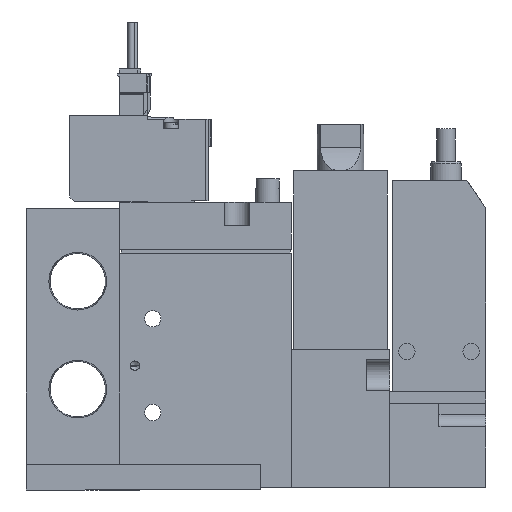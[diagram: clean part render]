
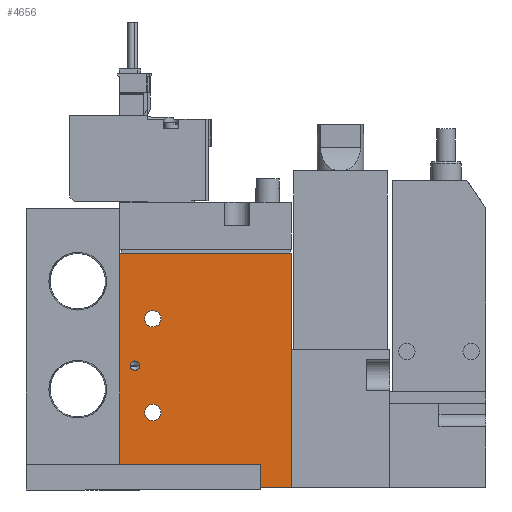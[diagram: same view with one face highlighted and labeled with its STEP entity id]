
A CAD part, left-side view. The second image highlights one B-rep face of the part: STEP entity #4656.
In plain terms, the highlighted planar face has unit normal (-1, 0, 0) as drawn and (1, 0, 0) by its records, which use the part's own axes.
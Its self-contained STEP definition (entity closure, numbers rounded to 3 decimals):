
#4656=ADVANCED_FACE('',(#7368,#7369,#7370,#7371),#7372,.F.);
#7368=FACE_BOUND('',#12770,.T.);
#7369=FACE_BOUND('',#12771,.T.);
#7370=FACE_BOUND('',#12772,.T.);
#7371=FACE_OUTER_BOUND('',#12773,.T.);
#7372=PLANE('',#12774);
#12770=EDGE_LOOP('',(#19151));
#12771=EDGE_LOOP('',(#19152));
#12772=EDGE_LOOP('',(#19153));
#12773=EDGE_LOOP('',(#19154,#19155,#19156,#19157));
#12774=AXIS2_PLACEMENT_3D('',#19158,#19159,#19160);
#19151=ORIENTED_EDGE('',*,*,#36791,.F.);
#19152=ORIENTED_EDGE('',*,*,#36793,.T.);
#19153=ORIENTED_EDGE('',*,*,#36771,.T.);
#19154=ORIENTED_EDGE('',*,*,#36781,.T.);
#19155=ORIENTED_EDGE('',*,*,#36786,.F.);
#19156=ORIENTED_EDGE('',*,*,#36784,.F.);
#19157=ORIENTED_EDGE('',*,*,#36787,.T.);
#19158=CARTESIAN_POINT('',(8.5,-19.444,50.0));
#19159=DIRECTION('',(-1.0,0.0,0.0));
#19160=DIRECTION('',(0.0,0.0,1.0));
#36771=EDGE_CURVE('',#42866,#42866,#42867,.T.);
#36781=EDGE_CURVE('',#42886,#42884,#42887,.T.);
#36784=EDGE_CURVE('',#42889,#42891,#42892,.T.);
#36786=EDGE_CURVE('',#42891,#42884,#42894,.T.);
#36787=EDGE_CURVE('',#42889,#42886,#42895,.T.);
#36791=EDGE_CURVE('',#42902,#42902,#42903,.T.);
#36793=EDGE_CURVE('',#42904,#42904,#42905,.T.);
#42866=VERTEX_POINT('',#53276);
#42867=CIRCLE('',#53277,1.75);
#42884=VERTEX_POINT('',#53298);
#42886=VERTEX_POINT('',#53301);
#42887=LINE('',#53302,#53303);
#42889=VERTEX_POINT('',#53306);
#42891=VERTEX_POINT('',#53309);
#42892=LINE('',#53310,#53311);
#42894=LINE('',#53314,#53315);
#42895=LINE('',#53316,#53317);
#42902=VERTEX_POINT('',#53324);
#42903=CIRCLE('',#53325,1.0);
#42904=VERTEX_POINT('',#53326);
#42905=CIRCLE('',#53327,1.75);
#53276=CARTESIAN_POINT('',(8.5,-10.694,16.0));
#53277=AXIS2_PLACEMENT_3D('',#67474,#67475,#67476);
#53298=CARTESIAN_POINT('',(8.5,17.056,0.0));
#53301=CARTESIAN_POINT('',(8.5,-19.444,0.0));
#53302=CARTESIAN_POINT('',(8.5,-19.444,0.0));
#53303=VECTOR('',#67494,1.0);
#53306=CARTESIAN_POINT('',(8.5,-19.444,50.0));
#53309=CARTESIAN_POINT('',(8.5,17.056,50.0));
#53310=CARTESIAN_POINT('',(8.5,-19.444,50.0));
#53311=VECTOR('',#67497,1.0);
#53314=CARTESIAN_POINT('',(8.5,17.056,50.0));
#53315=VECTOR('',#67499,1.0);
#53316=CARTESIAN_POINT('',(8.5,-19.444,50.0));
#53317=VECTOR('',#67500,1.0);
#53324=CARTESIAN_POINT('',(8.5,-17.244,26.0));
#53325=AXIS2_PLACEMENT_3D('',#67510,#67511,#67512);
#53326=CARTESIAN_POINT('',(8.5,-10.694,36.0));
#53327=AXIS2_PLACEMENT_3D('',#67513,#67514,#67515);
#67474=CARTESIAN_POINT('',(8.5,-12.444,16.0));
#67475=DIRECTION('',(-1.0,0.0,0.0));
#67476=DIRECTION('',(0.0,1.0,0.0));
#67494=DIRECTION('',(0.0,1.0,0.0));
#67497=DIRECTION('',(0.0,1.0,0.0));
#67499=DIRECTION('',(0.0,0.0,-1.0));
#67500=DIRECTION('',(0.0,0.0,-1.0));
#67510=CARTESIAN_POINT('',(8.5,-16.244,26.0));
#67511=DIRECTION('',(1.0,0.,0.0));
#67512=DIRECTION('',(0.,-1.0,0.0));
#67513=CARTESIAN_POINT('',(8.5,-12.444,36.0));
#67514=DIRECTION('',(-1.0,0.0,0.0));
#67515=DIRECTION('',(0.0,1.0,0.0));
